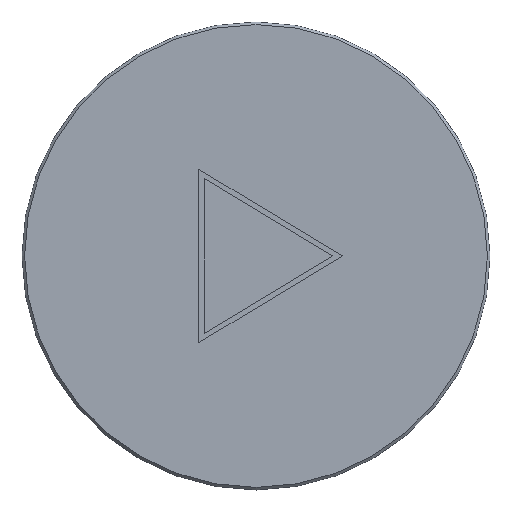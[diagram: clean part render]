
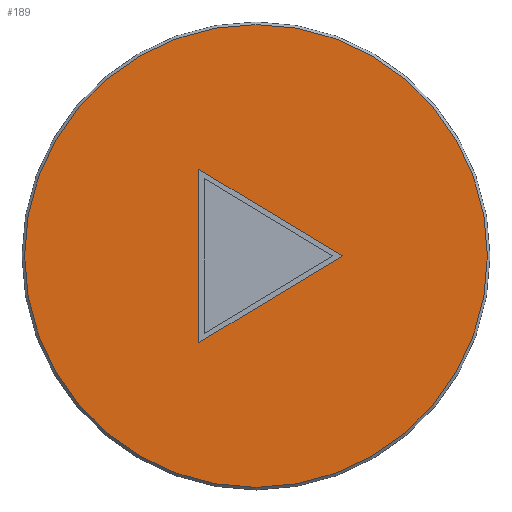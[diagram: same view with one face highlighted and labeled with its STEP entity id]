
A CAD part, top view. The second image highlights one B-rep face of the part: STEP entity #189.
In plain terms, the highlighted planar face has unit normal (0, 0, 1).
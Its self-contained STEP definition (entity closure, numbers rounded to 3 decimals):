
#17=CIRCLE('',#216,13.35);
#21=FACE_BOUND('',#43,.T.);
#29=FACE_OUTER_BOUND('',#42,.T.);
#42=EDGE_LOOP('',(#156));
#43=EDGE_LOOP('',(#157,#158,#159));
#52=LINE('',#288,#72);
#61=LINE('',#305,#81);
#64=LINE('',#310,#84);
#72=VECTOR('',#233,10.);
#81=VECTOR('',#248,10.);
#84=VECTOR('',#253,10.);
#92=VERTEX_POINT('',#286);
#93=VERTEX_POINT('',#287);
#98=VERTEX_POINT('',#304);
#100=VERTEX_POINT('',#314);
#107=EDGE_CURVE('',#92,#93,#52,.T.);
#116=EDGE_CURVE('',#93,#98,#61,.T.);
#119=EDGE_CURVE('',#98,#92,#64,.T.);
#121=EDGE_CURVE('',#100,#100,#17,.T.);
#156=ORIENTED_EDGE('',*,*,#121,.T.);
#157=ORIENTED_EDGE('',*,*,#116,.T.);
#158=ORIENTED_EDGE('',*,*,#119,.T.);
#159=ORIENTED_EDGE('',*,*,#107,.T.);
#179=PLANE('',#215);
#189=ADVANCED_FACE('',(#29,#21),#179,.T.);
#215=AXIS2_PLACEMENT_3D('',#313,#257,#258);
#216=AXIS2_PLACEMENT_3D('',#315,#259,#260);
#233=DIRECTION('',(0.,1.,0.));
#248=DIRECTION('',(0.857,-0.516,0.));
#253=DIRECTION('',(-0.857,-0.516,0.));
#257=DIRECTION('center_axis',(0.,0.,1.));
#258=DIRECTION('ref_axis',(1.,0.,0.));
#259=DIRECTION('center_axis',(0.,0.,1.));
#260=DIRECTION('ref_axis',(1.,0.,0.));
#286=CARTESIAN_POINT('',(-3.3,-52.,0.55));
#287=CARTESIAN_POINT('',(-3.3,-42.,0.55));
#288=CARTESIAN_POINT('',(-3.3,-44.5,0.55));
#304=CARTESIAN_POINT('',(5.,-47.,0.55));
#305=CARTESIAN_POINT('',(3.166,-45.895,0.55));
#310=CARTESIAN_POINT('',(-0.984,-50.605,0.55));
#313=CARTESIAN_POINT('Origin',(0.,-47.,0.55));
#314=CARTESIAN_POINT('',(-13.35,-47.,0.55));
#315=CARTESIAN_POINT('Origin',(0.,-47.,0.55));
